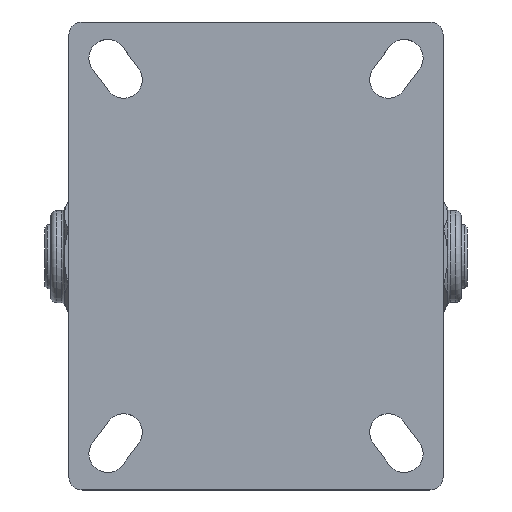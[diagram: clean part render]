
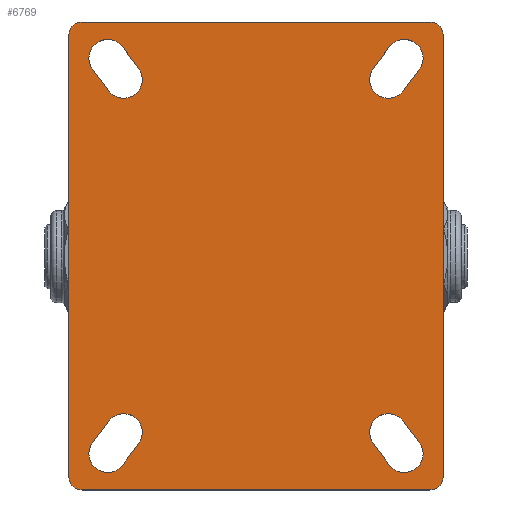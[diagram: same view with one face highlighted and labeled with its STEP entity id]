
A CAD part, top view. The second image highlights one B-rep face of the part: STEP entity #6769.
In plain terms, the highlighted planar face has unit normal (0, 0, 1).
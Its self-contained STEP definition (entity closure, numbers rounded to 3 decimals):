
#5762=CARTESIAN_POINT('',(12.373,128.849,84.943));
#5763=VERTEX_POINT('',#5762);
#5770=CARTESIAN_POINT('',(23.573,137.249,84.943));
#5771=VERTEX_POINT('',#5770);
#5772=CARTESIAN_POINT('',(17.973,133.049,84.943));
#5773=DIRECTION('',(0.0,0.0,1.0));
#5774=DIRECTION('',(1.0,0.0,0.0));
#5775=AXIS2_PLACEMENT_3D('',#5772,#5773,#5774);
#5776=CIRCLE('',#5775,7.);
#5777=EDGE_CURVE('',#5763,#5771,#5776,.T.);
#5793=CARTESIAN_POINT('',(17.573,145.249,84.943));
#5794=VERTEX_POINT('',#5793);
#5795=CARTESIAN_POINT('',(6.373,136.849,84.943));
#5796=VERTEX_POINT('',#5795);
#5797=CARTESIAN_POINT('',(11.973,141.049,84.943));
#5798=DIRECTION('',(0.0,0.0,1.0));
#5799=DIRECTION('',(1.0,0.0,0.0));
#5800=AXIS2_PLACEMENT_3D('',#5797,#5798,#5799);
#5801=CIRCLE('',#5800,7.);
#5802=EDGE_CURVE('',#5794,#5796,#5801,.T.);
#5835=CARTESIAN_POINT('',(111.373,137.249,84.943));
#5836=VERTEX_POINT('',#5835);
#5837=CARTESIAN_POINT('',(122.573,128.849,84.943));
#5838=VERTEX_POINT('',#5837);
#5839=CARTESIAN_POINT('',(116.973,133.049,84.943));
#5840=DIRECTION('',(0.0,0.0,1.0));
#5841=DIRECTION('',(1.0,0.0,0.0));
#5842=AXIS2_PLACEMENT_3D('',#5839,#5840,#5841);
#5843=CIRCLE('',#5842,7.);
#5844=EDGE_CURVE('',#5836,#5838,#5843,.T.);
#5888=CARTESIAN_POINT('',(128.573,136.849,84.943));
#5889=VERTEX_POINT('',#5888);
#5896=CARTESIAN_POINT('',(117.373,145.249,84.943));
#5897=VERTEX_POINT('',#5896);
#5898=CARTESIAN_POINT('',(122.973,141.049,84.943));
#5899=DIRECTION('',(0.0,0.0,1.0));
#5900=DIRECTION('',(1.0,0.0,0.0));
#5901=AXIS2_PLACEMENT_3D('',#5898,#5899,#5900);
#5902=CIRCLE('',#5901,7.);
#5903=EDGE_CURVE('',#5889,#5897,#5902,.T.);
#5919=CARTESIAN_POINT('',(122.573,5.249,84.943));
#5920=VERTEX_POINT('',#5919);
#5921=CARTESIAN_POINT('',(111.373,-3.151,84.943));
#5922=VERTEX_POINT('',#5921);
#5923=CARTESIAN_POINT('',(116.973,1.049,84.943));
#5924=DIRECTION('',(0.0,0.0,1.0));
#5925=DIRECTION('',(1.0,0.0,0.0));
#5926=AXIS2_PLACEMENT_3D('',#5923,#5924,#5925);
#5927=CIRCLE('',#5926,7.);
#5928=EDGE_CURVE('',#5920,#5922,#5927,.T.);
#5972=CARTESIAN_POINT('',(117.373,-11.151,84.943));
#5973=VERTEX_POINT('',#5972);
#5980=CARTESIAN_POINT('',(128.573,-2.751,84.943));
#5981=VERTEX_POINT('',#5980);
#5982=CARTESIAN_POINT('',(122.973,-6.951,84.943));
#5983=DIRECTION('',(0.0,0.0,1.0));
#5984=DIRECTION('',(1.0,0.0,0.0));
#5985=AXIS2_PLACEMENT_3D('',#5982,#5983,#5984);
#5986=CIRCLE('',#5985,7.);
#5987=EDGE_CURVE('',#5973,#5981,#5986,.T.);
#6014=CARTESIAN_POINT('',(23.573,-3.151,84.943));
#6015=VERTEX_POINT('',#6014);
#6022=CARTESIAN_POINT('',(12.373,5.249,84.943));
#6023=VERTEX_POINT('',#6022);
#6024=CARTESIAN_POINT('',(17.973,1.049,84.943));
#6025=DIRECTION('',(0.0,0.0,1.0));
#6026=DIRECTION('',(1.0,0.0,0.0));
#6027=AXIS2_PLACEMENT_3D('',#6024,#6025,#6026);
#6028=CIRCLE('',#6027,7.);
#6029=EDGE_CURVE('',#6015,#6023,#6028,.T.);
#6045=CARTESIAN_POINT('',(6.373,-2.751,84.943));
#6046=VERTEX_POINT('',#6045);
#6047=CARTESIAN_POINT('',(17.573,-11.151,84.943));
#6048=VERTEX_POINT('',#6047);
#6049=CARTESIAN_POINT('',(11.973,-6.951,84.943));
#6050=DIRECTION('',(0.0,0.0,1.0));
#6051=DIRECTION('',(1.0,0.0,0.0));
#6052=AXIS2_PLACEMENT_3D('',#6049,#6050,#6051);
#6053=CIRCLE('',#6052,7.);
#6054=EDGE_CURVE('',#6046,#6048,#6053,.T.);
#6232=CARTESIAN_POINT('',(132.473,-20.451,84.943));
#6233=VERTEX_POINT('',#6232);
#6234=CARTESIAN_POINT('',(2.473,-20.451,84.943));
#6235=VERTEX_POINT('',#6234);
#6236=CARTESIAN_POINT('',(132.473,-20.451,84.943));
#6237=DIRECTION('',(-1.0,0.0,0.0));
#6238=VECTOR('',#6237,130.);
#6239=LINE('',#6236,#6238);
#6240=EDGE_CURVE('',#6233,#6235,#6239,.T.);
#6272=CARTESIAN_POINT('',(-2.527,-15.451,84.943));
#6273=VERTEX_POINT('',#6272);
#6274=CARTESIAN_POINT('',(2.473,-15.451,84.943));
#6275=DIRECTION('',(0.0,0.0,-1.0));
#6276=DIRECTION('',(1.0,0.0,0.0));
#6277=AXIS2_PLACEMENT_3D('',#6274,#6275,#6276);
#6278=CIRCLE('',#6277,5.0);
#6279=EDGE_CURVE('',#6235,#6273,#6278,.T.);
#6305=CARTESIAN_POINT('',(-2.527,149.549,84.943));
#6306=VERTEX_POINT('',#6305);
#6307=CARTESIAN_POINT('',(-2.527,-15.451,84.943));
#6308=DIRECTION('',(0.0,1.0,0.0));
#6309=VECTOR('',#6308,165.0);
#6310=LINE('',#6307,#6309);
#6311=EDGE_CURVE('',#6273,#6306,#6310,.T.);
#6336=CARTESIAN_POINT('',(2.473,154.549,84.943));
#6337=VERTEX_POINT('',#6336);
#6338=CARTESIAN_POINT('',(2.473,149.549,84.943));
#6339=DIRECTION('',(0.0,0.0,-1.0));
#6340=DIRECTION('',(1.0,0.0,0.0));
#6341=AXIS2_PLACEMENT_3D('',#6338,#6339,#6340);
#6342=CIRCLE('',#6341,5.0);
#6343=EDGE_CURVE('',#6306,#6337,#6342,.T.);
#6369=CARTESIAN_POINT('',(132.473,154.549,84.943));
#6370=VERTEX_POINT('',#6369);
#6371=CARTESIAN_POINT('',(2.473,154.549,84.943));
#6372=DIRECTION('',(1.0,0.0,0.0));
#6373=VECTOR('',#6372,130.);
#6374=LINE('',#6371,#6373);
#6375=EDGE_CURVE('',#6337,#6370,#6374,.T.);
#6400=CARTESIAN_POINT('',(137.473,149.549,84.943));
#6401=VERTEX_POINT('',#6400);
#6402=CARTESIAN_POINT('',(132.473,149.549,84.943));
#6403=DIRECTION('',(0.0,0.0,-1.0));
#6404=DIRECTION('',(1.0,0.0,0.0));
#6405=AXIS2_PLACEMENT_3D('',#6402,#6403,#6404);
#6406=CIRCLE('',#6405,5.0);
#6407=EDGE_CURVE('',#6370,#6401,#6406,.T.);
#6433=CARTESIAN_POINT('',(137.473,-15.451,84.943));
#6434=VERTEX_POINT('',#6433);
#6435=CARTESIAN_POINT('',(137.473,149.549,84.943));
#6436=DIRECTION('',(0.0,-1.0,0.0));
#6437=VECTOR('',#6436,165.0);
#6438=LINE('',#6435,#6437);
#6439=EDGE_CURVE('',#6401,#6434,#6438,.T.);
#6464=CARTESIAN_POINT('',(132.473,-15.451,84.943));
#6465=DIRECTION('',(0.0,0.0,-1.0));
#6466=DIRECTION('',(1.0,0.0,0.0));
#6467=AXIS2_PLACEMENT_3D('',#6464,#6465,#6466);
#6468=CIRCLE('',#6467,5.0);
#6469=EDGE_CURVE('',#6434,#6233,#6468,.T.);
#6488=CARTESIAN_POINT('',(17.573,-11.151,84.943));
#6489=DIRECTION('',(0.6,0.8,0.0));
#6490=VECTOR('',#6489,10.);
#6491=LINE('',#6488,#6490);
#6492=EDGE_CURVE('',#6048,#6015,#6491,.T.);
#6510=CARTESIAN_POINT('',(12.373,5.249,84.943));
#6511=DIRECTION('',(-0.6,-0.8,0.0));
#6512=VECTOR('',#6511,10.);
#6513=LINE('',#6510,#6512);
#6514=EDGE_CURVE('',#6023,#6046,#6513,.T.);
#6532=CARTESIAN_POINT('',(128.573,-2.751,84.943));
#6533=DIRECTION('',(-0.6,0.8,0.0));
#6534=VECTOR('',#6533,10.);
#6535=LINE('',#6532,#6534);
#6536=EDGE_CURVE('',#5981,#5920,#6535,.T.);
#6554=CARTESIAN_POINT('',(111.373,-3.151,84.943));
#6555=DIRECTION('',(0.6,-0.8,0.0));
#6556=VECTOR('',#6555,10.);
#6557=LINE('',#6554,#6556);
#6558=EDGE_CURVE('',#5922,#5973,#6557,.T.);
#6576=CARTESIAN_POINT('',(122.573,128.849,84.943));
#6577=DIRECTION('',(0.6,0.8,0.0));
#6578=VECTOR('',#6577,10.);
#6579=LINE('',#6576,#6578);
#6580=EDGE_CURVE('',#5838,#5889,#6579,.T.);
#6598=CARTESIAN_POINT('',(117.373,145.249,84.943));
#6599=DIRECTION('',(-0.6,-0.8,0.0));
#6600=VECTOR('',#6599,10.0);
#6601=LINE('',#6598,#6600);
#6602=EDGE_CURVE('',#5897,#5836,#6601,.T.);
#6620=CARTESIAN_POINT('',(6.373,136.849,84.943));
#6621=DIRECTION('',(0.6,-0.8,0.0));
#6622=VECTOR('',#6621,10.);
#6623=LINE('',#6620,#6622);
#6624=EDGE_CURVE('',#5796,#5763,#6623,.T.);
#6642=CARTESIAN_POINT('',(23.573,137.249,84.943));
#6643=DIRECTION('',(-0.6,0.8,0.0));
#6644=VECTOR('',#6643,10.);
#6645=LINE('',#6642,#6644);
#6646=EDGE_CURVE('',#5771,#5794,#6645,.T.);
#6730=CARTESIAN_POINT('',(67.473,67.049,84.943));
#6731=DIRECTION('',(0.0,0.0,1.0));
#6732=DIRECTION('',(1.0,0.0,0.0));
#6733=AXIS2_PLACEMENT_3D('',#6730,#6731,#6732);
#6734=PLANE('',#6733);
#6735=ORIENTED_EDGE('',*,*,#6240,.F.);
#6736=ORIENTED_EDGE('',*,*,#6469,.F.);
#6737=ORIENTED_EDGE('',*,*,#6439,.F.);
#6738=ORIENTED_EDGE('',*,*,#6407,.F.);
#6739=ORIENTED_EDGE('',*,*,#6375,.F.);
#6740=ORIENTED_EDGE('',*,*,#6343,.F.);
#6741=ORIENTED_EDGE('',*,*,#6311,.F.);
#6742=ORIENTED_EDGE('',*,*,#6279,.F.);
#6743=EDGE_LOOP('',(#6735,#6736,#6737,#6738,#6739,#6740,#6741,#6742));
#6744=FACE_OUTER_BOUND('',#6743,.T.);
#6745=ORIENTED_EDGE('',*,*,#5802,.F.);
#6746=ORIENTED_EDGE('',*,*,#6646,.F.);
#6747=ORIENTED_EDGE('',*,*,#5777,.F.);
#6748=ORIENTED_EDGE('',*,*,#6624,.F.);
#6749=EDGE_LOOP('',(#6745,#6746,#6747,#6748));
#6750=FACE_BOUND('',#6749,.T.);
#6751=ORIENTED_EDGE('',*,*,#6580,.F.);
#6752=ORIENTED_EDGE('',*,*,#5844,.F.);
#6753=ORIENTED_EDGE('',*,*,#6602,.F.);
#6754=ORIENTED_EDGE('',*,*,#5903,.F.);
#6755=EDGE_LOOP('',(#6751,#6752,#6753,#6754));
#6756=FACE_BOUND('',#6755,.T.);
#6757=ORIENTED_EDGE('',*,*,#5987,.F.);
#6758=ORIENTED_EDGE('',*,*,#6558,.F.);
#6759=ORIENTED_EDGE('',*,*,#5928,.F.);
#6760=ORIENTED_EDGE('',*,*,#6536,.F.);
#6761=EDGE_LOOP('',(#6757,#6758,#6759,#6760));
#6762=FACE_BOUND('',#6761,.T.);
#6763=ORIENTED_EDGE('',*,*,#6054,.F.);
#6764=ORIENTED_EDGE('',*,*,#6514,.F.);
#6765=ORIENTED_EDGE('',*,*,#6029,.F.);
#6766=ORIENTED_EDGE('',*,*,#6492,.F.);
#6767=EDGE_LOOP('',(#6763,#6764,#6765,#6766));
#6768=FACE_BOUND('',#6767,.T.);
#6769=ADVANCED_FACE('',(#6744,#6750,#6756,#6762,#6768),#6734,.T.);
